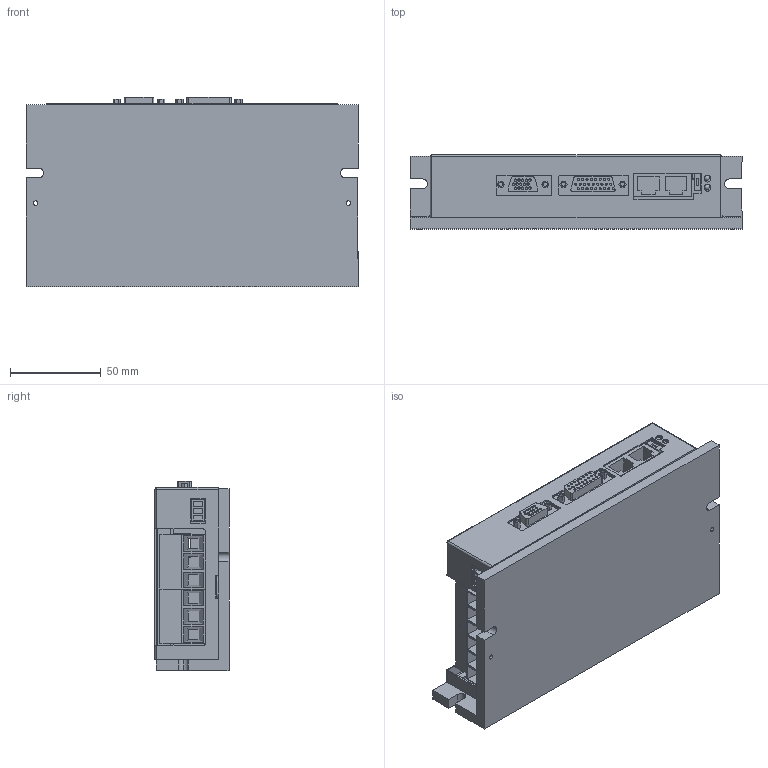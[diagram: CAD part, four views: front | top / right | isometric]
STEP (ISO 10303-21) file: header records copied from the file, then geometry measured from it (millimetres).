
FILE_DESCRIPTION (( 'STEP AP214' ), '1' );
FILE_NAME ('4080装配体包括内部零件.STEP', '2024-09-24T06:23:37', ( '' ), ( '' ), 'SwSTEP 2.0', 'SolidWorks 2018', '' );
FILE_SCHEMA (( 'AUTOMOTIVE_DESIGN' ));
Length unit declared in the file: millimetre
Products named in the file (7): 4080装配体包括内部零件; Backup of BLDC DRV-4080-G 驱动板; 硌尨腑湮輸翋璃; 4080菁釱; 萇埭諉芛; P2秶雄惕掅傷赽; 4080俋褲
Assembly tree (7 placements, depth 2):
  4080装配体包括内部零件
    4080菁釱
    4080俋褲
    硌尨腑湮輸翋璃
    P2秶雄惕掅傷赽
    萇埭諉芛  x2
    Backup of BLDC DRV-4080-G 驱动板
Bounding box: 182.5 x 40.7 x 103.9 mm (x, y, z)
Volume: 234021.9 mm3; surface area: 175237.1 mm2
Topology: 54 solids, 54 shells, 1732 faces, 4322 edges, 2875 vertices
Faces by surface type: plane 1216, cylinder 506, bspline 6, cone 4
Entity records: 67820 total; most frequent: CARTESIAN_POINT 9473, DIRECTION 8492, ORIENTED_EDGE 8404, EDGE_CURVE 4202, VECTOR 3186, LINE 3186, VERTEX_POINT 2799, AXIS2_PLACEMENT_3D 2653
